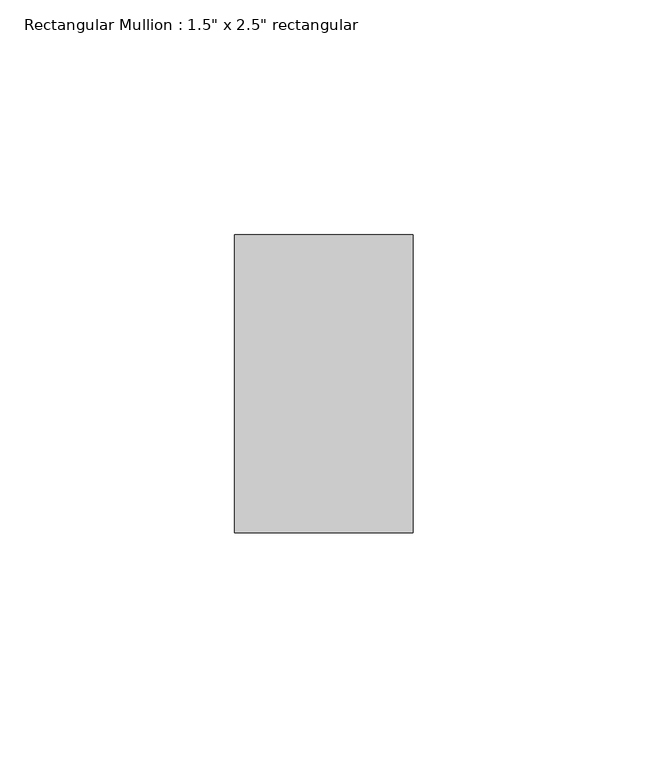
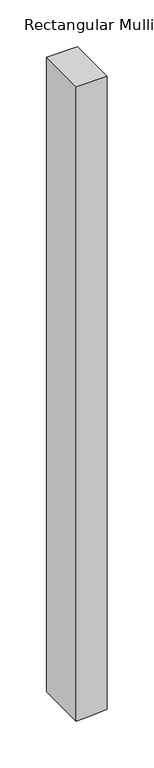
"""IFC4 building model written with IfcOpenShell, lengths in millimetres: member geometry."""

from ifc_helpers import new_model, si_unit, frame, origin, place, context, project, spatial, polyline, outline, extrude, source, transform, mapped, element, save


def member_e515bb77(model_context):
    return source(origin(), model_context, "Body", "SweptSolid", [
        extrude(outline(polyline([(0.0, 19.05), (0.0, -19.05), (-828.1195577, -19.05), (-827.4925371, -3.863399), (-825.6447214, 19.05), (0.0, 19.05)])), frame((0.0, -31.75, 0.0), z_axis=(0.0, 1.0, 0.0), x_axis=(0.0, 0.0, 1.0)), (0.0, 0.0, 1.0), 63.5),
    ])


if __name__ == "__main__":
    model = new_model("IFC4")
    model_context = context("Model", 3, world=origin())
    ifc_project = project(units=[si_unit("LENGTHUNIT", "METRE", prefix="MILLI")], contexts=[model_context])
    site = spatial("IfcSite", under=ifc_project)
    building = spatial("IfcBuilding", under=site)
    placement = place(None, origin())
    member_shape = member_e515bb77(model_context)
    element("IfcMember", 1, ObjectType="Rectangular Mullion : 1.5\" x 2.5\" rectangular", at=placement, inside=building, context=model_context, shape_type="MappedRepresentation", body=[
        mapped(member_shape, transform((0.0, 0.0, 0.0), x_axis=(1.0, 0.0, 0.0), y_axis=(0.0, 1.0, 0.0), z_axis=(0.0, 0.0, 1.0))),
    ])
    save(model, "model.ifc")
